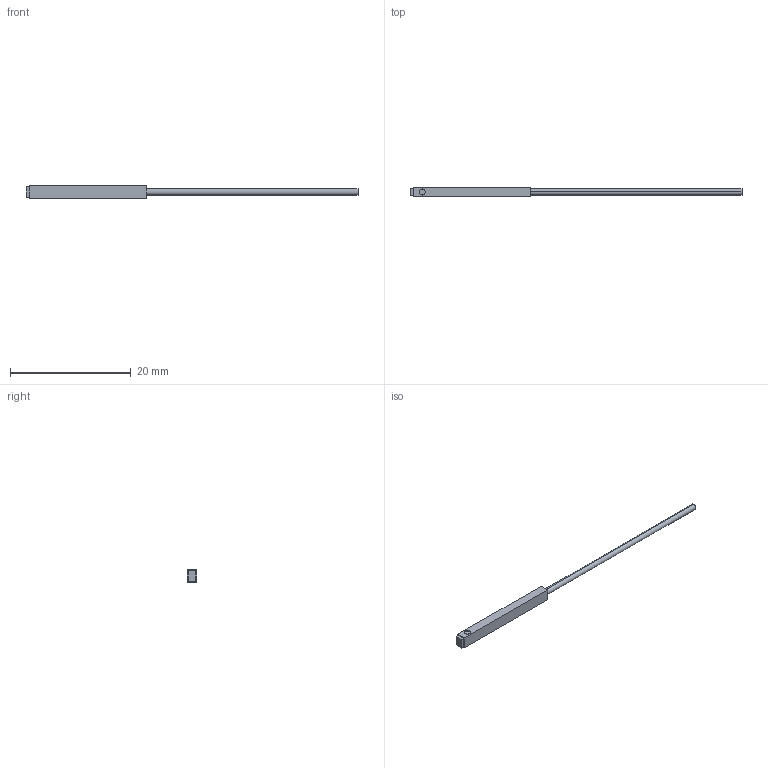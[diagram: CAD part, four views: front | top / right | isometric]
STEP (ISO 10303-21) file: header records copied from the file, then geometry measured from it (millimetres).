
FILE_DESCRIPTION (( 'STEP AP203' ), '1' );
FILE_NAME ('FT-H10-KV1.STEP', '2005-09-08T02:04:14', ( '' ), ( '' ), 'SwSTEP 2.0', 'SolidWorks 2004073', '' );
FILE_SCHEMA (( 'CONFIG_CONTROL_DESIGN' ));
Length unit declared in the file: millimetre
Products named in the file (1): FT-H10-KV1
Bounding box: 55 x 1.5 x 2 mm (x, y, z)
Volume: 87 mm3; surface area: 255.8 mm2
Topology: 1 solids, 1 shells, 17 faces, 36 edges, 24 vertices
Faces by surface type: plane 13, cylinder 4
Entity records: 535 total; most frequent: DIRECTION 80, CARTESIAN_POINT 78, ORIENTED_EDGE 72, EDGE_CURVE 36, VECTOR 28, LINE 28, AXIS2_PLACEMENT_3D 26, VERTEX_POINT 24
